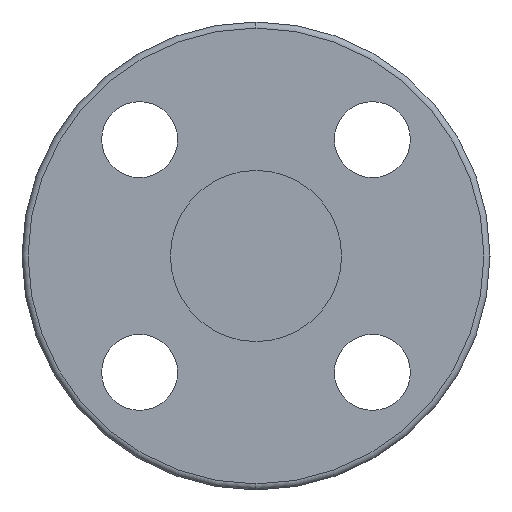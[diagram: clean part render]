
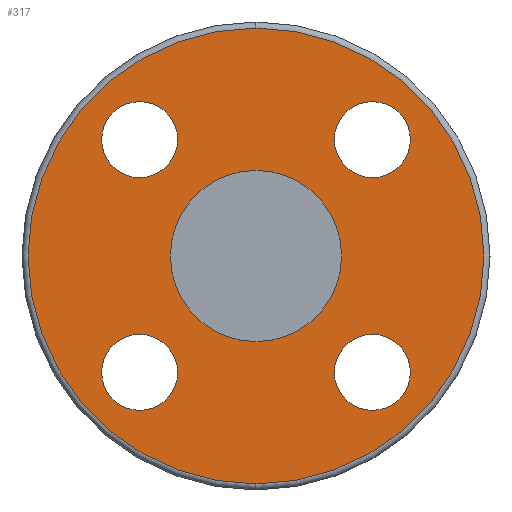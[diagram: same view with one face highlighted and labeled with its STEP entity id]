
A CAD part, left-side view. The second image highlights one B-rep face of the part: STEP entity #317.
In plain terms, the highlighted planar face has unit normal (-1, 0, 0).
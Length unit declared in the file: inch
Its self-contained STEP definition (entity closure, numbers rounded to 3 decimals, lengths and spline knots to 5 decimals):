
#1 = AXIS2_PLACEMENT_3D ( 'NONE', #752, #1671, #886 ) ;
#11 = AXIS2_PLACEMENT_3D ( 'NONE', #1119, #327, #1245 ) ;
#27 = DIRECTION ( 'NONE',  ( 0., 0., 1. ) ) ;
#38 = DIRECTION ( 'NONE',  ( -1., 0., 0. ) ) ;
#39 = CIRCLE ( 'NONE', #1313, 2.25 ) ;
#50 = CARTESIAN_POINT ( 'NONE',  ( 0.12, 1.14905, 1.14905 ) ) ;
#59 = CARTESIAN_POINT ( 'NONE',  ( 0.12, 1.14905, 0.77405 ) ) ;
#80 = EDGE_LOOP ( 'NONE', ( #1107, #1265 ) ) ;
#81 = EDGE_CURVE ( 'NONE', #1259, #165, #448, .T. ) ;
#87 = FACE_BOUND ( 'NONE', #1365, .T. ) ;
#103 = CIRCLE ( 'NONE', #500, 0.375 ) ;
#119 = CIRCLE ( 'NONE', #967, 0.375 ) ;
#128 = ORIENTED_EDGE ( 'NONE', *, *, #1164, .F. ) ;
#165 = VERTEX_POINT ( 'NONE', #1020 ) ;
#171 = EDGE_LOOP ( 'NONE', ( #629, #128 ) ) ;
#174 = CARTESIAN_POINT ( 'NONE',  ( 0.12, 0., -2.25 ) ) ;
#175 = DIRECTION ( 'NONE',  ( 0., 0., 1. ) ) ;
#192 = AXIS2_PLACEMENT_3D ( 'NONE', #990, #203, #1124 ) ;
#195 = EDGE_CURVE ( 'NONE', #1209, #1385, #942, .T. ) ;
#203 = DIRECTION ( 'NONE',  ( -1., 0., 0. ) ) ;
#231 = AXIS2_PLACEMENT_3D ( 'NONE', #794, #1325, #533 ) ;
#317 = ADVANCED_FACE ( 'NONE', ( #427, #1205, #815, #87, #1477, #769 ), #1195, .F. ) ;
#321 = CIRCLE ( 'NONE', #838, 0.375 ) ;
#327 = DIRECTION ( 'NONE',  ( -1., 0., 0. ) ) ;
#336 = EDGE_CURVE ( 'NONE', #570, #844, #731, .T. ) ;
#366 = CIRCLE ( 'NONE', #866, 0.375 ) ;
#377 = DIRECTION ( 'NONE',  ( -1., 0., 0. ) ) ;
#409 = AXIS2_PLACEMENT_3D ( 'NONE', #1597, #806, #27 ) ;
#418 = VERTEX_POINT ( 'NONE', #686 ) ;
#425 = CARTESIAN_POINT ( 'NONE',  ( 0.12, -1.14905, -1.14905 ) ) ;
#427 = FACE_BOUND ( 'NONE', #541, .T. ) ;
#448 = CIRCLE ( 'NONE', #830, 0.375 ) ;
#469 = DIRECTION ( 'NONE',  ( 0., 0., 1. ) ) ;
#478 = DIRECTION ( 'NONE',  ( -1., 0., 0. ) ) ;
#500 = AXIS2_PLACEMENT_3D ( 'NONE', #425, #1344, #552 ) ;
#533 = DIRECTION ( 'NONE',  ( 0., 0., -1. ) ) ;
#541 = EDGE_LOOP ( 'NONE', ( #641, #585 ) ) ;
#548 = AXIS2_PLACEMENT_3D ( 'NONE', #1296, #377, #1170 ) ;
#552 = DIRECTION ( 'NONE',  ( 0., 0., -1. ) ) ;
#570 = VERTEX_POINT ( 'NONE', #1311 ) ;
#573 = CARTESIAN_POINT ( 'NONE',  ( 0.12, 1.14905, -1.52405 ) ) ;
#585 = ORIENTED_EDGE ( 'NONE', *, *, #839, .F. ) ;
#591 = EDGE_CURVE ( 'NONE', #869, #1290, #709, .T. ) ;
#593 = DIRECTION ( 'NONE',  ( -1., 0., 0. ) ) ;
#605 = DIRECTION ( 'NONE',  ( -1., 0., 0. ) ) ;
#606 = CARTESIAN_POINT ( 'NONE',  ( 0.12, 1.14905, -1.14905 ) ) ;
#608 = ORIENTED_EDGE ( 'NONE', *, *, #1335, .F. ) ;
#611 = DIRECTION ( 'NONE',  ( 0., 1., 0. ) ) ;
#616 = EDGE_LOOP ( 'NONE', ( #1075, #764 ) ) ;
#629 = ORIENTED_EDGE ( 'NONE', *, *, #81, .F. ) ;
#641 = ORIENTED_EDGE ( 'NONE', *, *, #719, .F. ) ;
#686 = CARTESIAN_POINT ( 'NONE',  ( 0.12, -1.14905, -1.52405 ) ) ;
#709 = CIRCLE ( 'NONE', #548, 0.375 ) ;
#719 = EDGE_CURVE ( 'NONE', #1623, #1660, #1676, .T. ) ;
#723 = ORIENTED_EDGE ( 'NONE', *, *, #1598, .F. ) ;
#731 = CIRCLE ( 'NONE', #409, 0.845 ) ;
#748 = CARTESIAN_POINT ( 'NONE',  ( 0.12, 1.14905, -1.14905 ) ) ;
#749 = VERTEX_POINT ( 'NONE', #1011 ) ;
#752 = CARTESIAN_POINT ( 'NONE',  ( 0.12, 0., 0. ) ) ;
#764 = ORIENTED_EDGE ( 'NONE', *, *, #1308, .F. ) ;
#769 = FACE_OUTER_BOUND ( 'NONE', #80, .T. ) ;
#794 = CARTESIAN_POINT ( 'NONE',  ( 0.12, 0.845, 0. ) ) ;
#799 = EDGE_LOOP ( 'NONE', ( #608, #1319 ) ) ;
#806 = DIRECTION ( 'NONE',  ( -1., 0., 0. ) ) ;
#815 = FACE_BOUND ( 'NONE', #171, .T. ) ;
#820 = CARTESIAN_POINT ( 'NONE',  ( 0.12, -1.14905, 1.14905 ) ) ;
#830 = AXIS2_PLACEMENT_3D ( 'NONE', #1401, #605, #1266 ) ;
#838 = AXIS2_PLACEMENT_3D ( 'NONE', #820, #38, #954 ) ;
#839 = EDGE_CURVE ( 'NONE', #1660, #1623, #119, .T. ) ;
#844 = VERTEX_POINT ( 'NONE', #1651 ) ;
#866 = AXIS2_PLACEMENT_3D ( 'NONE', #50, #963, #175 ) ;
#869 = VERTEX_POINT ( 'NONE', #1136 ) ;
#886 = DIRECTION ( 'NONE',  ( 0., 0., 1. ) ) ;
#889 = EDGE_CURVE ( 'NONE', #1385, #1209, #39, .T. ) ;
#942 = CIRCLE ( 'NONE', #1, 2.25 ) ;
#954 = DIRECTION ( 'NONE',  ( 0., -1., 0. ) ) ;
#963 = DIRECTION ( 'NONE',  ( -1., 0., 0. ) ) ;
#967 = AXIS2_PLACEMENT_3D ( 'NONE', #606, #478, #1268 ) ;
#990 = CARTESIAN_POINT ( 'NONE',  ( 0.12, -1.14905, -1.14905 ) ) ;
#1011 = CARTESIAN_POINT ( 'NONE',  ( 0.12, -1.14905, -0.77405 ) ) ;
#1020 = CARTESIAN_POINT ( 'NONE',  ( 0.12, -1.14905, 0.77405 ) ) ;
#1075 = ORIENTED_EDGE ( 'NONE', *, *, #336, .F. ) ;
#1107 = ORIENTED_EDGE ( 'NONE', *, *, #889, .T. ) ;
#1119 = CARTESIAN_POINT ( 'NONE',  ( 0.12, 0., 0. ) ) ;
#1124 = DIRECTION ( 'NONE',  ( 0., 0., -1. ) ) ;
#1127 = CIRCLE ( 'NONE', #192, 0.375 ) ;
#1136 = CARTESIAN_POINT ( 'NONE',  ( 0.12, 1.14905, 1.52405 ) ) ;
#1164 = EDGE_CURVE ( 'NONE', #165, #1259, #321, .T. ) ;
#1166 = CIRCLE ( 'NONE', #11, 0.845 ) ;
#1170 = DIRECTION ( 'NONE',  ( 0., 0., 1. ) ) ;
#1195 = PLANE ( 'NONE',  #231 ) ;
#1205 = FACE_BOUND ( 'NONE', #799, .T. ) ;
#1209 = VERTEX_POINT ( 'NONE', #174 ) ;
#1245 = DIRECTION ( 'NONE',  ( 0., 0., 1. ) ) ;
#1259 = VERTEX_POINT ( 'NONE', #1361 ) ;
#1265 = ORIENTED_EDGE ( 'NONE', *, *, #195, .T. ) ;
#1266 = DIRECTION ( 'NONE',  ( 0., -1., 0. ) ) ;
#1268 = DIRECTION ( 'NONE',  ( 0., 1., 0. ) ) ;
#1290 = VERTEX_POINT ( 'NONE', #59 ) ;
#1296 = CARTESIAN_POINT ( 'NONE',  ( 0.12, 1.14905, 1.14905 ) ) ;
#1308 = EDGE_CURVE ( 'NONE', #844, #570, #1166, .T. ) ;
#1311 = CARTESIAN_POINT ( 'NONE',  ( 0.12, 0., 0.845 ) ) ;
#1313 = AXIS2_PLACEMENT_3D ( 'NONE', #1526, #593, #469 ) ;
#1319 = ORIENTED_EDGE ( 'NONE', *, *, #1560, .F. ) ;
#1325 = DIRECTION ( 'NONE',  ( 1., 0., 0. ) ) ;
#1335 = EDGE_CURVE ( 'NONE', #749, #418, #1127, .T. ) ;
#1344 = DIRECTION ( 'NONE',  ( -1., 0., 0. ) ) ;
#1361 = CARTESIAN_POINT ( 'NONE',  ( 0.12, -1.14905, 1.52405 ) ) ;
#1365 = EDGE_LOOP ( 'NONE', ( #1531, #723 ) ) ;
#1385 = VERTEX_POINT ( 'NONE', #1438 ) ;
#1401 = CARTESIAN_POINT ( 'NONE',  ( 0.12, -1.14905, 1.14905 ) ) ;
#1438 = CARTESIAN_POINT ( 'NONE',  ( 0.12, 0., 2.25 ) ) ;
#1477 = FACE_BOUND ( 'NONE', #616, .T. ) ;
#1526 = CARTESIAN_POINT ( 'NONE',  ( 0.12, 0., 0. ) ) ;
#1531 = ORIENTED_EDGE ( 'NONE', *, *, #591, .F. ) ;
#1537 = DIRECTION ( 'NONE',  ( -1., 0., 0. ) ) ;
#1560 = EDGE_CURVE ( 'NONE', #418, #749, #103, .T. ) ;
#1597 = CARTESIAN_POINT ( 'NONE',  ( 0.12, 0., 0. ) ) ;
#1598 = EDGE_CURVE ( 'NONE', #1290, #869, #366, .T. ) ;
#1611 = AXIS2_PLACEMENT_3D ( 'NONE', #748, #1537, #611 ) ;
#1622 = CARTESIAN_POINT ( 'NONE',  ( 0.12, 1.14905, -0.77405 ) ) ;
#1623 = VERTEX_POINT ( 'NONE', #1622 ) ;
#1651 = CARTESIAN_POINT ( 'NONE',  ( 0.12, 0., -0.845 ) ) ;
#1660 = VERTEX_POINT ( 'NONE', #573 ) ;
#1671 = DIRECTION ( 'NONE',  ( -1., 0., 0. ) ) ;
#1676 = CIRCLE ( 'NONE', #1611, 0.375 ) ;
